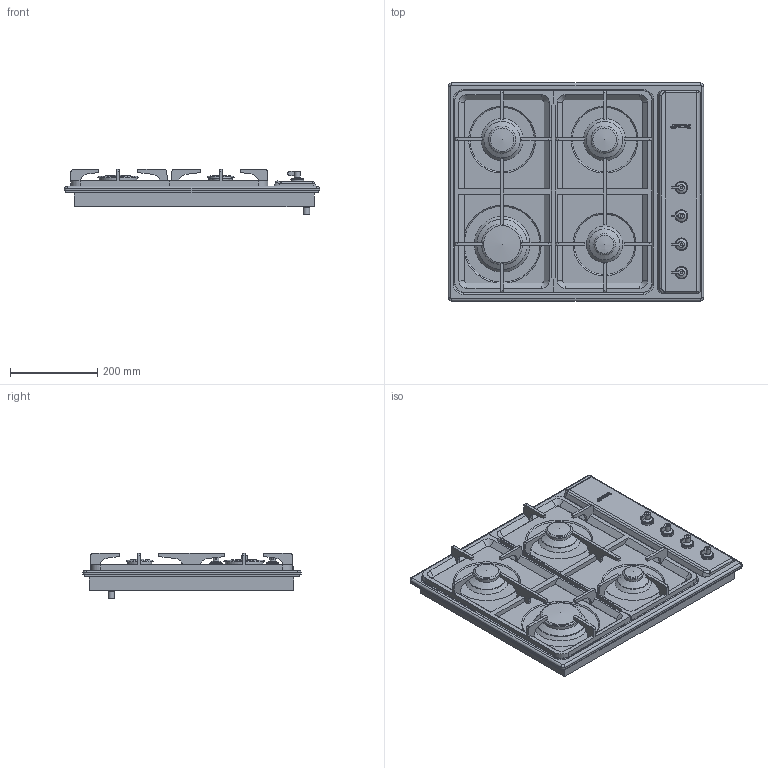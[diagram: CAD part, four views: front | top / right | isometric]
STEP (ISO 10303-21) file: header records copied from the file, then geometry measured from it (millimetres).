
FILE_DESCRIPTION(/* description */ (''),/* implementation_level */ '2;1');
FILE_NAME(/* name */ 'piano ps60ghc.stp',/* time_stamp */ '2018-07-27T15:20:23+02:00',/* author */ (''),/* organization */ (''),/* preprocessor_version */ 'ST-DEVELOPER v16',/* originating_system */ 'SIEMENS PLM Software NX 11.0',/* authorisation */ '');
FILE_SCHEMA (('AUTOMOTIVE_DESIGN { 1 0 10303 214 3 1 1 1 }'));
Length unit declared in the file: millimetre
Products named in the file (1): gobb88783A3Dir23
Bounding box: 585 x 500 x 103.23 mm (x, y, z)
Volume: 12537972.3 mm3; surface area: 1603197 mm2
Topology: 30 solids, 30 shells, 597 faces, 1466 edges, 964 vertices
Faces by surface type: plane 366, cylinder 159, cone 24, torus 21, extrusion 11, sphere 10, bspline 6
Full cylindrical faces by diameter (mm): 3.988 x6, 6 x4, 8 x4, 10 x8, 13.5 x4, 15 x2, 21 x4, 27 x4, 29 x4, 42 x1, 43 x1, 55 x2, 56 x2, 70.5 x1, 83 x2, 87 x1, 88 x1, 115 x1
Entity records: 17357 total; most frequent: CARTESIAN_POINT 3259, DIRECTION 2882, ORIENTED_EDGE 2670, EDGE_CURVE 1335, AXIS2_PLACEMENT_3D 964, VECTOR 954, LINE 943, VERTEX_POINT 915
